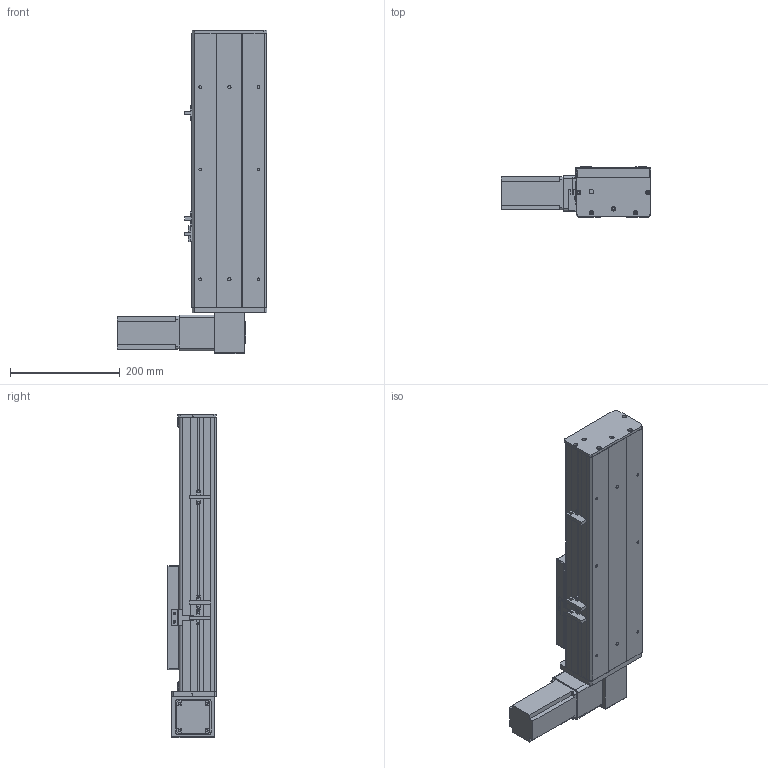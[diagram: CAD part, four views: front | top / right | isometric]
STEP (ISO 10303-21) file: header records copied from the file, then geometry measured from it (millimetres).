
FILE_DESCRIPTION (( 'STEP AP203' ), '1' );
FILE_NAME ('Y135CB-D90-S200-BD-P400W.STEP', '2020-02-19T02:49:46', ( '微软用户' ), ( '微软中国' ), 'SwSTEP 2.0', 'SolidWorks 2017', '' );
FILE_SCHEMA (( 'CONFIG_CONTROL_DESIGN' ));
Length unit declared in the file: millimetre
Products named in the file (16): Y135CB-D90-S200-BD-P400W; 35CB---喘謫眊楊擘啣; C-詩湍揤踡え-陔; 0B-埴倛裔啣; 135CB--詩湍-CE; 0B-源倛裔啣; Y100-135俋离換覜ん--; san松下电机400不带刹车----; Y135C-陔俋离換覜結え-; 5C--俋欶; C-雄赽釱--; Y135CB-耜裔; Y10B--々湍喘謫眊--666; 135CB---遴掛极.-; 0B-薊粣ん眊; 5CB --掛极耜裔啣-
Assembly tree (19 placements, depth 2):
  Y135CB-D90-S200-BD-P400W
    Y135CB-耜裔
    135CB---遴掛极.-
    35CB---喘謫眊楊擘啣
    0B-埴倛裔啣
    0B-源倛裔啣
    san松下电机400不带刹车----
    5CB --掛极耜裔啣-  x2
    C-詩湍揤踡え-陔  x2
    135CB--詩湍-CE
    Y100-135俋离換覜ん--  x3
    Y135C-陔俋离換覜結え-
    5C--俋欶
    C-雄赽釱--
    Y10B--々湍喘謫眊--666
    0B-薊粣ん眊
Bounding box: 272 x 91 x 588 mm (x, y, z)
Volume: 2309263.4 mm3; surface area: 838479.6 mm2
Topology: 19 solids, 19 shells, 839 faces, 2194 edges, 1452 vertices
Faces by surface type: plane 415, cylinder 408, cone 16
Entity records: 25198 total; most frequent: DIRECTION 4198, CARTESIAN_POINT 4071, ORIENTED_EDGE 3864, EDGE_CURVE 1932, AXIS2_PLACEMENT_3D 1531, VERTEX_POINT 1280, LINE 1136, VECTOR 1136
